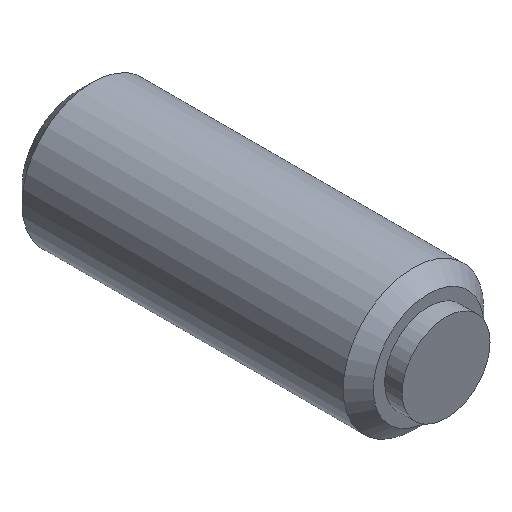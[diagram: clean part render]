
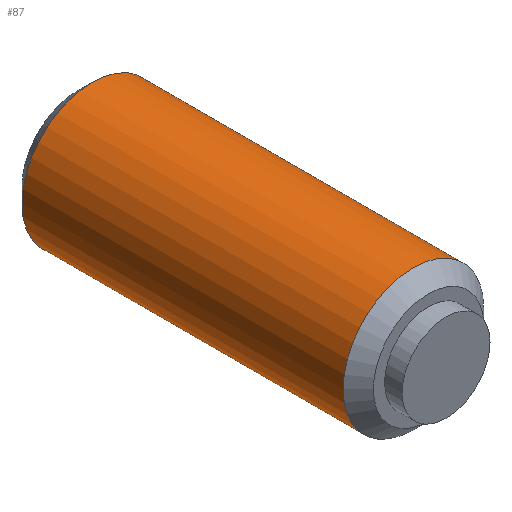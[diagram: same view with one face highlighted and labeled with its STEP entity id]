
A CAD part, isometric view. The second image highlights one B-rep face of the part: STEP entity #87.
In plain terms, the highlighted cylindrical face has radius 2 mm (diameter 4 mm), a full revolution.
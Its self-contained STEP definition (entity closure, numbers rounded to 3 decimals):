
#87 = ADVANCED_FACE( '', ( #118, #119 ), #120, .T. );
#118 = FACE_OUTER_BOUND( '', #152, .T. );
#119 = FACE_OUTER_BOUND( '', #153, .T. );
#120 = CYLINDRICAL_SURFACE( '', #154, 2. );
#152 = EDGE_LOOP( '', ( #238 ) );
#153 = EDGE_LOOP( '', ( #239 ) );
#154 = AXIS2_PLACEMENT_3D( '', #240, #241, #242 );
#238 = ORIENTED_EDGE( '', *, *, #270, .F. );
#239 = ORIENTED_EDGE( '', *, *, #271, .T. );
#240 = CARTESIAN_POINT( '', ( 0., 0., 0. ) );
#241 = DIRECTION( '', ( 0., 1., 0. ) );
#242 = DIRECTION( '', ( 0., 0., -1. ) );
#270 = EDGE_CURVE( '', #310, #310, #311, .T. );
#271 = EDGE_CURVE( '', #312, #312, #313, .T. );
#310 = VERTEX_POINT( '', #370 );
#311 = CIRCLE( '', #371, 2. );
#312 = VERTEX_POINT( '', #372 );
#313 = CIRCLE( '', #373, 2. );
#370 = CARTESIAN_POINT( '', ( 0., 0.93, -2. ) );
#371 = AXIS2_PLACEMENT_3D( '', #404, #405, #406 );
#372 = CARTESIAN_POINT( '', ( 0., 10.071, -2. ) );
#373 = AXIS2_PLACEMENT_3D( '', #407, #408, #409 );
#404 = CARTESIAN_POINT( '', ( 0., 0.93, 0. ) );
#405 = DIRECTION( '', ( 0., -1., 0. ) );
#406 = DIRECTION( '', ( 0., 0., -1. ) );
#407 = CARTESIAN_POINT( '', ( 0., 10.071, 0. ) );
#408 = DIRECTION( '', ( 0., -1., 0. ) );
#409 = DIRECTION( '', ( 0., 0., -1. ) );
